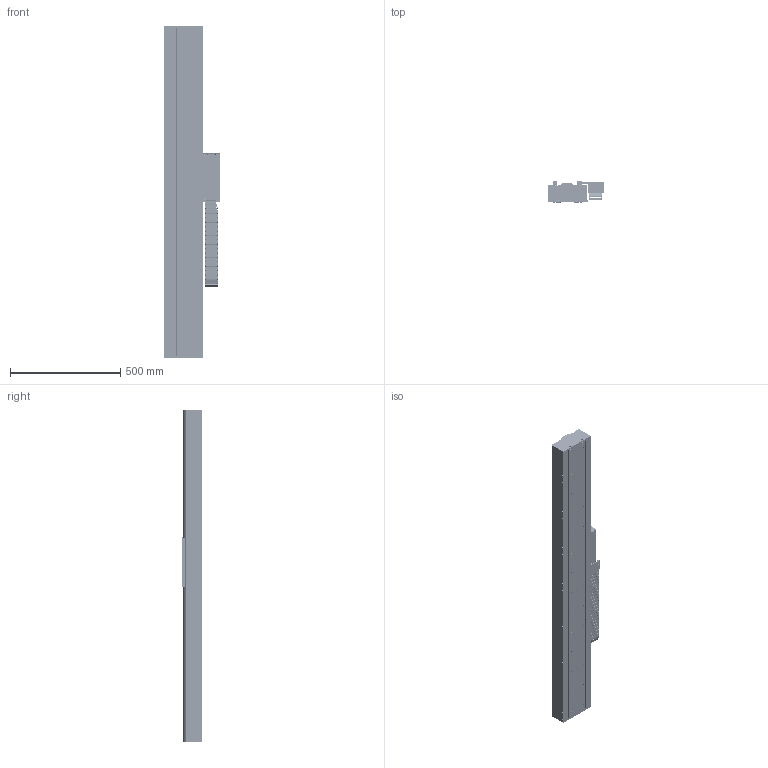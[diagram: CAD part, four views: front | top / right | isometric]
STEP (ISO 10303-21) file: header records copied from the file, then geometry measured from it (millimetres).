
FILE_DESCRIPTION (( 'STEP AP203' ), '1' );
FILE_NAME ('STF35120K-xC1B-Bxx.STEP', '2007-09-17T21:01:46', ( 'Yaskawa' ), ( 'Yaskawa' ), 'SwSTEP 2.0', 'SolidWorks 2007', '' );
FILE_SCHEMA (( 'CONFIG_CONTROL_DESIGN' ));
Length unit declared in the file: millimetre
Products named in the file (66): End Stop with Bumper; SGLFM-35756AC; STF35120 Complete Carriage; Mult-SR15+580LY_002; STF35-120 SSR15W Carriage-R2; RGH22B; STF2035-004 Flag; B18.3.1M - 4 x 0.7 x 12 Hex SHCS -- 12CHX_B18.3.1M - 4 x 0.7 x 12 Hex SHCS -- 12CHX; STCM-003 Cable Assembly Bottom; STCM-004 Cable Assembly Side; B18.3.1M - 6 x 1.0 x 25 Hex SHCS -- 25CHX_B18.3.1M - 6 x 1.0 x 25 Hex SHCS -- 25CHX; B18.3.4M - 3 x 0.5 x 12 SBHCS --N_B18.3.4M - 3 x 0.5 x 12 SBHCS --N; 07.50.028.0_96; STF20120K; 07.50.028.0_97; 07.50.028.0_101; 07.50.028.0_102; 07.50.028.0_109; 07.50.028.0_110; 07.50.028.0_116; 07.50.028.0_118; 07.50.028.0_119; 07.50.028.0_111; 07.50.028.0_105; STF35120K-xC1B-Bxx; STF35BM Base_STF35120-010; STF35120 Base_STF35BM-010; SGLFM-35324AC; STF2035-007 End Stop; Bumper-Medium; B18.3.1M - 6 x 1.0 x 16 Hex SHCS -- 16NHX_B18.3.1M - 6 x 1.0 x 16 Hex SHCS -- 16NHX; Mult-SR15+580LY_010; STF2035-001C F35-120 Carriage; STF2035-002A-R2 F2035 Carriage Horn; STF2035-005-R2 Cable Router; STF2035-003 Renishaw Encoder Mount; SSR15W Block; SGLFW-35120AP; STCM-R1; STCM-001-R2 Cable Bracket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
Assembly tree (124 placements, depth 4):
  STF35120K-xC1B-Bxx
    STF35BM Base_STF35120-010
      Mult-SR15+580LY_010  x2
      End Stop with Bumper  x4
        STF2035-007 End Stop
        Bumper-Medium
        B18.3.1M - 6 x 1.0 x 16 Hex SHCS -- 16NHX_B18.3.1M - 6 x 1.0 x 16 Hex SHCS -- 16NHX
      SGLFM-35324AC  x2
      Mult-SR15+580LY_002
      SGLFM-35756AC
      STF35120 Base_STF35BM-010
    STCM-007 Lower E-Chain Bracket
    STF2035-009-02 Top Cover 2_K
    STF2035-010-02 Side Cover 2_K  x2
    STF35120 Complete Carriage
      STF35-120 SSR15W Carriage-R2
        STF2035-002A-R2 F2035 Carriage Horn  x2
        STF2035-005-R2 Cable Router
        SSR15W Block  x4
        RGH22B
        STF2035-001C F35-120 Carriage
        STF2035-003 Renishaw Encoder Mount
        SGLFW-35120AP
        STF2035-004 Flag
      B18.3.1M - 4 x 0.7 x 12 Hex SHCS -- 12CHX_B18.3.1M - 4 x 0.7 x 12 Hex SHCS -- 12CHX  x18
      B18.3.1M - 6 x 1.0 x 25 Hex SHCS -- 25CHX_B18.3.1M - 6 x 1.0 x 25 Hex SHCS -- 25CHX  x6
      B18.3.4M - 3 x 0.5 x 12 SBHCS --N_B18.3.4M - 3 x 0.5 x 12 SBHCS --N  x3
      STCM-R1
        STCM-006-R1 Upper E-chain Bracket
        B18.3.5M - 3 x 0.5 x 6 Socket FCHS  -- 6N_B18.3.5M - 3 x 0.5 x 6 Socket FCHS  -- 6N  x6
        B18.3.4M - 3 x 0.5 x 12 SBHCS --N_B18.3.4M - 3 x 0.5 x 12 SBHCS --N  x4
        STCM-001-R2 Cable Bracket
        STCM-002-R2 Cable Assembly Front
        Serial Converter
        STCM-004 Cable Assembly Side
        STCM-005-R1 Cable Assembly Cover
        STCM-003 Cable Assembly Bottom
    STF2035-006 Endplate  x2
    STF20120K
      07.50.028.0_111  x9
      07.50.028.0_96
      07.50.028.0_116
      07.50.028.0_123
      07.50.028.0_110
      07.50.028.0_99
      07.50.028.0_103
      07.50.028.0_105  x8
      07.50.028.0_112
      07.50.028.0_117
      07.50.028.0_107
      07.50.028.0_109
      07.50.028.0_119
      07.50.028.0_122
      07.50.028.0_104
      07.50.028.0_120
      07.50.028.0_101
      07.50.028.0_113
      07.50.028.0_118
      07.50.028.0_106
      07.50.028.0_97
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Bounding box: 254.2 x 94.7 x 1509.05 mm (x, y, z)
Volume: 8878434.3 mm3; surface area: 3030158.6 mm2
Topology: 165 solids, 165 shells, 7873 faces, 20014 edges, 12616 vertices
Faces by surface type: plane 3979, cylinder 3010, cone 740, torus 86, bspline 44, sphere 14
Entity records: 152191 total; most frequent: DIRECTION 25647, CARTESIAN_POINT 25011, ORIENTED_EDGE 23650, EDGE_CURVE 11825, AXIS2_PLACEMENT_3D 9026, VERTEX_POINT 7729, LINE 7595, VECTOR 7595
